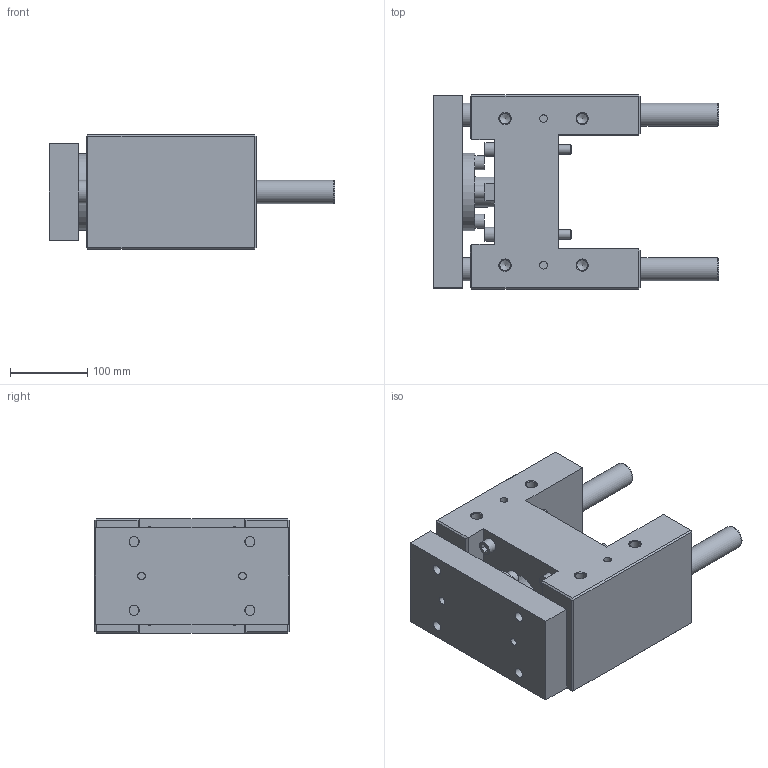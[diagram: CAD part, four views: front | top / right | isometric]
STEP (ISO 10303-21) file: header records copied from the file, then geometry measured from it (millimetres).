
FILE_DESCRIPTION( ( 'STEP AP214' ), '1' );
FILE_NAME( 'U:/Etudes/Top Solid/BIBLIO 3D AVM/TOP/PNEUMATIQUE/GUIDAGES/Type 32 (en H)/R_Renforcée/320R1_30.step', '2005-05-27T08:38:51', ( ' ' ), ( ' ' ), 'XStep 1.0', ' ', ' ' );
FILE_SCHEMA( ( 'automotive_design' ) );
Length unit declared in the file: metre
Products named in the file (2): 1; 2
Bounding box: 370 x 252 x 148 mm (x, y, z)
Volume: 6416531.2 mm3; surface area: 526557 mm2
Topology: 2 solids, 7 shells, 238 faces, 524 edges, 339 vertices
Faces by surface type: plane 149, cylinder 68, cone 21
Full cylindrical faces by diameter (mm): 10 x4, 10.106 x4, 12 x16, 13 x12, 13.835 x8, 18 x8, 20 x4, 24.835 x1, 30 x4, 39 x1, 42 x1, 57 x1, 60 x2, 65 x1, 100 x1
Entity records: 7905 total; most frequent: CARTESIAN_POINT 1198, DIRECTION 996, ORIENTED_EDGE 784, EDGE_CURVE 392, EDGE_LOOP 390, AXIS2_PLACEMENT_3D 372, FACE_OUTER_BOUND 306, VERTEX_POINT 302
